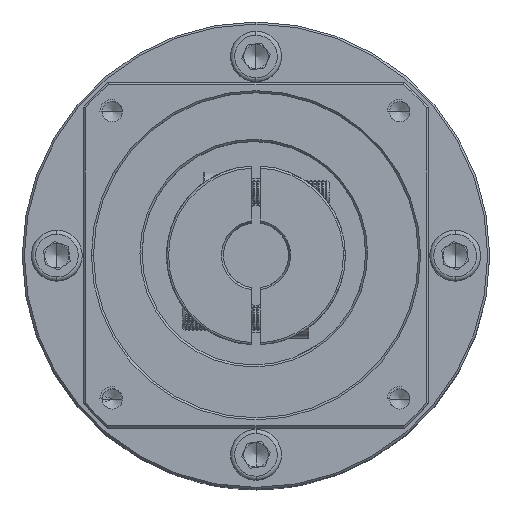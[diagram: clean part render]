
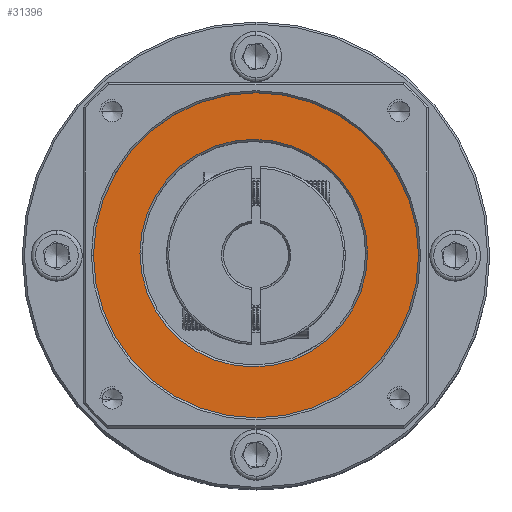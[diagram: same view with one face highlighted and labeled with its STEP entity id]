
A CAD part, top view. The second image highlights one B-rep face of the part: STEP entity #31396.
In plain terms, the highlighted planar face has unit normal (0, 0, 1).
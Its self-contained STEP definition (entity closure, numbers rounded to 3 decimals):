
#1540 = CARTESIAN_POINT ( 'NONE',  ( 90.126, -29.245, 17.397 ) ) ;
#5227 = CARTESIAN_POINT ( 'NONE',  ( 90.126, -29.245, 17.397 ) ) ;
#9805 = CARTESIAN_POINT ( 'NONE',  ( 89.584, -28.711, 17.397 ) ) ;
#10187 = ORIENTED_EDGE ( 'NONE', *, *, #116759, .T. ) ;
#13668 = EDGE_LOOP ( 'NONE', ( #20105, #10187 ) ) ;
#19474 = DIRECTION ( 'NONE',  ( 0., 0., -1. ) ) ;
#20105 = ORIENTED_EDGE ( 'NONE', *, *, #84243, .T. ) ;
#23401 = CARTESIAN_POINT ( 'NONE',  ( 61.584, -28.711, 17.397 ) ) ;
#26254 = DIRECTION ( 'NONE',  ( 1., 0., 0. ) ) ;
#27125 = FACE_BOUND ( 'NONE', #13668, .T. ) ;
#30598 = DIRECTION ( 'NONE',  ( 0., 0., -1. ) ) ;
#31396 = ADVANCED_FACE ( 'NONE', ( #106573, #27125 ), #98811, .T. ) ;
#34212 = DIRECTION ( 'NONE',  ( 0., 0., 1. ) ) ;
#34766 = AXIS2_PLACEMENT_3D ( 'NONE', #39502, #30598, #104056 ) ;
#35954 = CARTESIAN_POINT ( 'NONE',  ( 90.126, -29.245, 17.397 ) ) ;
#36437 = CARTESIAN_POINT ( 'NONE',  ( 117.584, -28.711, 17.397 ) ) ;
#36541 = EDGE_CURVE ( 'NONE', #49525, #60192, #86226, .T. ) ;
#36738 = DIRECTION ( 'NONE',  ( 0., 0., 1. ) ) ;
#39502 = CARTESIAN_POINT ( 'NONE',  ( 89.584, -28.711, 17.397 ) ) ;
#48102 = AXIS2_PLACEMENT_3D ( 'NONE', #9805, #19474, #103324 ) ;
#49211 = CIRCLE ( 'NONE', #34766, 28. ) ;
#49525 = VERTEX_POINT ( 'NONE', #107447 ) ;
#49885 = ORIENTED_EDGE ( 'NONE', *, *, #36541, .T. ) ;
#53675 = AXIS2_PLACEMENT_3D ( 'NONE', #1540, #93915, #103565 ) ;
#56441 = CIRCLE ( 'NONE', #48102, 28. ) ;
#58043 = AXIS2_PLACEMENT_3D ( 'NONE', #5227, #34212, #98407 ) ;
#60139 = ORIENTED_EDGE ( 'NONE', *, *, #61764, .T. ) ;
#60192 = VERTEX_POINT ( 'NONE', #76226 ) ;
#61764 = EDGE_CURVE ( 'NONE', #60192, #49525, #71123, .T. ) ;
#67358 = EDGE_LOOP ( 'NONE', ( #49885, #60139 ) ) ;
#71123 = CIRCLE ( 'NONE', #53675, 40. ) ;
#76226 = CARTESIAN_POINT ( 'NONE',  ( 50.126, -29.245, 17.397 ) ) ;
#78029 = VERTEX_POINT ( 'NONE', #36437 ) ;
#82547 = AXIS2_PLACEMENT_3D ( 'NONE', #35954, #36738, #26254 ) ;
#84243 = EDGE_CURVE ( 'NONE', #78029, #102641, #56441, .T. ) ;
#86226 = CIRCLE ( 'NONE', #82547, 40. ) ;
#93915 = DIRECTION ( 'NONE',  ( 0., 0., 1. ) ) ;
#98407 = DIRECTION ( 'NONE',  ( 1., 0., 0. ) ) ;
#98811 = PLANE ( 'NONE',  #58043 ) ;
#102641 = VERTEX_POINT ( 'NONE', #23401 ) ;
#103324 = DIRECTION ( 'NONE',  ( 1., 0., 0. ) ) ;
#103565 = DIRECTION ( 'NONE',  ( 1., 0., 0. ) ) ;
#104056 = DIRECTION ( 'NONE',  ( 1., 0., 0. ) ) ;
#106573 = FACE_OUTER_BOUND ( 'NONE', #67358, .T. ) ;
#107447 = CARTESIAN_POINT ( 'NONE',  ( 130.126, -29.245, 17.397 ) ) ;
#116759 = EDGE_CURVE ( 'NONE', #102641, #78029, #49211, .T. ) ;
